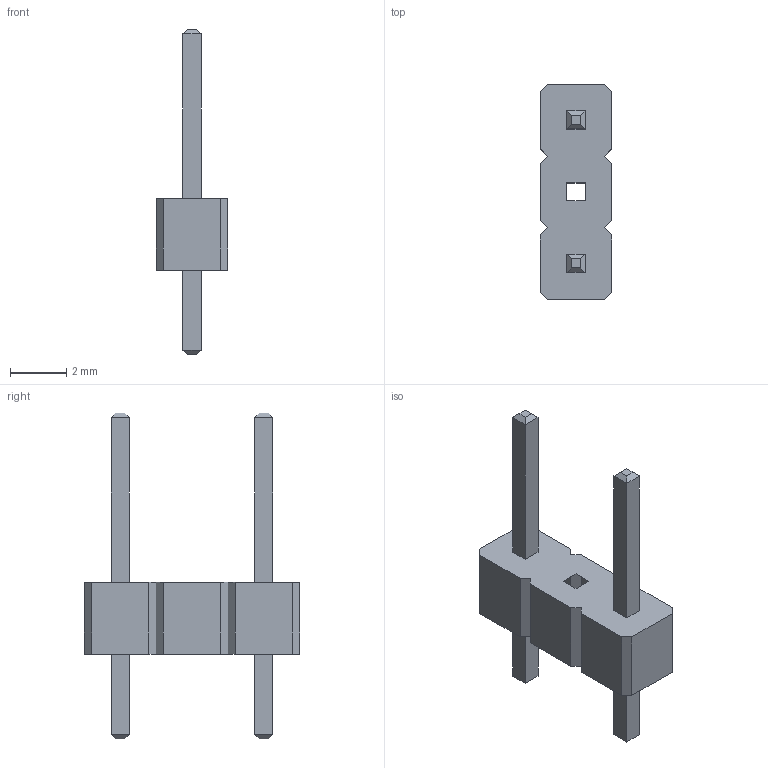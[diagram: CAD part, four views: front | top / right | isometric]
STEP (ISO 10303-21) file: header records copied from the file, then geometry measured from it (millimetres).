
FILE_DESCRIPTION(('FreeCAD Model'),'2;1');
FILE_NAME('Open CASCADE Shape Model','2024-07-12T21:51:48',('Author'),( ''),'Open CASCADE STEP processor 7.6','FreeCAD','Unknown');
FILE_SCHEMA(('AUTOMOTIVE_DESIGN { 1 0 10303 214 1 1 1 1 }'));
Length unit declared in the file: millimetre
Products named in the file (1): Compound001
Bounding box: 2.54 x 7.62 x 11.54 mm (x, y, z)
Surface area: 134.3 mm2 (no closed solid volume)
Topology: 0 solids, 58 shells, 58 faces, 288 edges, 288 vertices
Faces by surface type: plane 58
Entity records: 5336 total; most frequent: CARTESIAN_POINT 923, DIRECTION 694, LINE 576, VECTOR 576, ORIENTED_EDGE 288, EDGE_CURVE 288, VERTEX_POINT 288, SURFACE_CURVE 288
